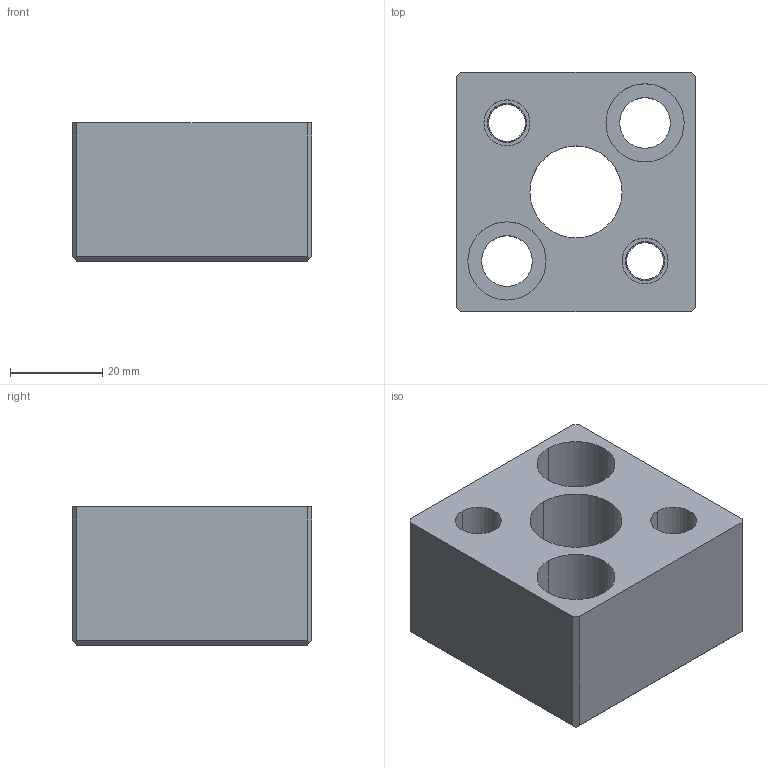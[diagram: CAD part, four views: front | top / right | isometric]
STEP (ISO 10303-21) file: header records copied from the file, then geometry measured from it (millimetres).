
FILE_DESCRIPTION(/* description */ (''),/* implementation_level */ '2;1');
FILE_NAME(/* name */ '3d_sa-fn20_05041_r00.stp',/* time_stamp */ '2011-01-10T14:11:29+09:00',/* author */ ('MISUMI'),/* organization */ (''),/* preprocessor_version */ 'ST-DEVELOPER v11',/* originating_system */ 'UGS - NX 5.0',/* authorisation */ '');
FILE_SCHEMA (('CONFIG_CONTROL_DESIGN'));
Length unit declared in the file: millimetre
Products named in the file (1): 3d_sa-fn20_05041_r00
Bounding box: 52 x 52 x 30 mm (x, y, z)
Volume: 57334.4 mm3; surface area: 16449 mm2
Topology: 1 solids, 1 shells, 47 faces, 116 edges, 77 vertices
Faces by surface type: cylinder 23, plane 22, cone 2
Entity records: 1520 total; most frequent: DIRECTION 260, CARTESIAN_POINT 246, ORIENTED_EDGE 232, EDGE_CURVE 116, AXIS2_PLACEMENT_3D 97, VERTEX_POINT 77, LINE 66, VECTOR 66
